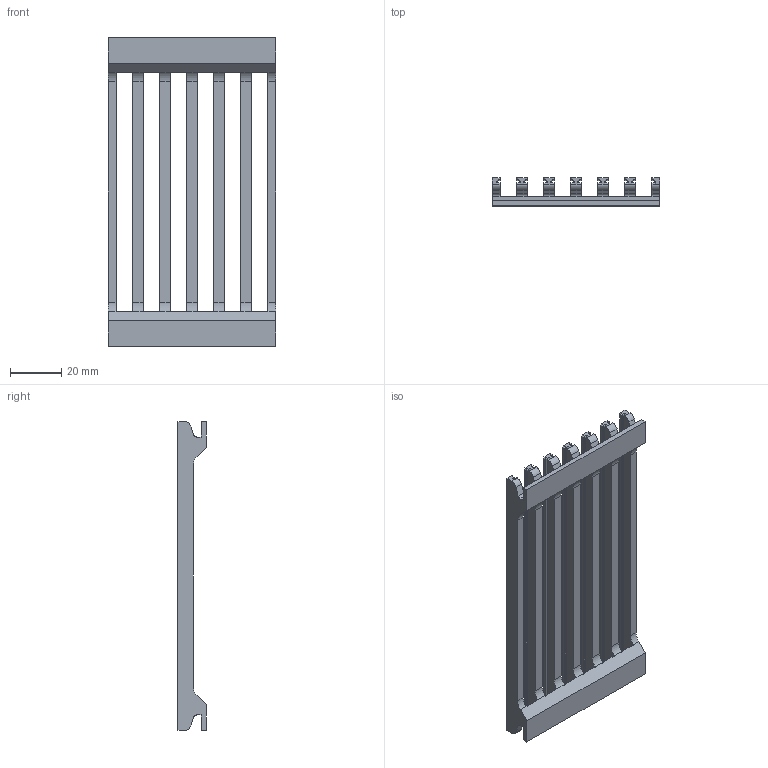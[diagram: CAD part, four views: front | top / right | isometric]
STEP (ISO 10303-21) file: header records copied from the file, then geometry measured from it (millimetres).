
FILE_DESCRIPTION(/* description */ (''),/* implementation_level */ '2;1');
FILE_NAME(/* name */ 'C:/Users/Ben/Downloads/3d-prints/printing/missing/FeederTrays/ClipPCBTrays v11.step',/* time_stamp */ '2022-03-13T14:09:07-04:00',/* author */ (''),/* organization */ (''),/* preprocessor_version */ 'ST-DEVELOPER v18.1',/* originating_system */ 'Autodesk Translation Framework v10.10.0.1391',/* authorisation */ '');
FILE_SCHEMA (('AUTOMOTIVE_DESIGN { 1 0 10303 214 3 1 1 }'));
Length unit declared in the file: millimetre
Products named in the file (1): ClipPCBTrays
Bounding box: 65 x 11 x 120 mm (x, y, z)
Volume: 21973.7 mm3; surface area: 22785.3 mm2
Topology: 1 solids, 1 shells, 300 faces, 834 edges, 524 vertices
Faces by surface type: plane 258, cylinder 42
Entity records: 9411 total; most frequent: ORIENTED_EDGE 1668, CARTESIAN_POINT 1659, DIRECTION 1520, EDGE_CURVE 834, LINE 750, VECTOR 750, VERTEX_POINT 524, AXIS2_PLACEMENT_3D 385
